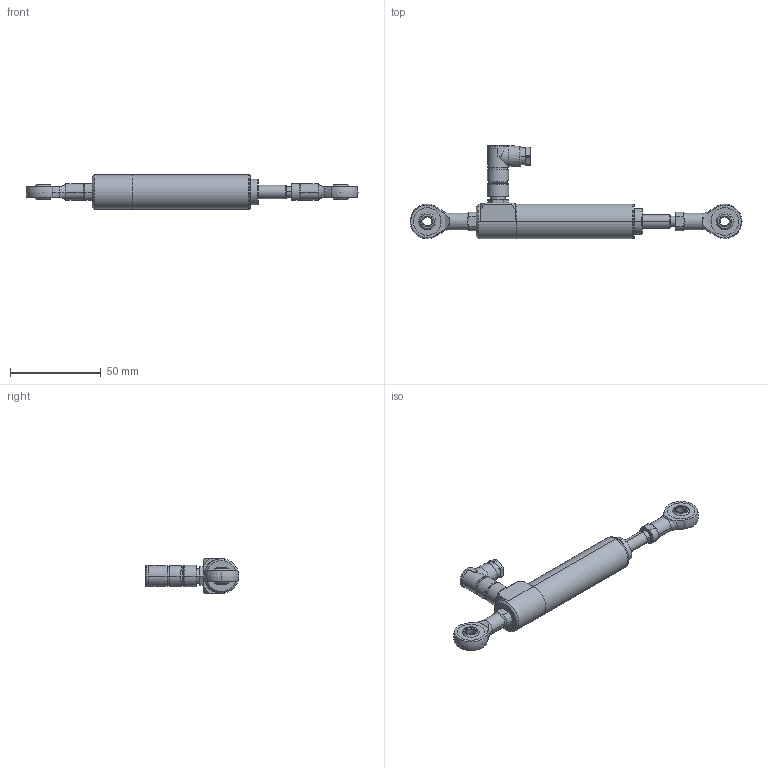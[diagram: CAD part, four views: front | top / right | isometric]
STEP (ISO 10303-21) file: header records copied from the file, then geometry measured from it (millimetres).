
FILE_DESCRIPTION (( 'STEP AP214' ), '1' );
FILE_NAME ('P118-5AKSU.STEP', '2025-04-10T10:32:08', ( '' ), ( '' ), 'SwSTEP 2.0', 'SolidWorks 2023', '' );
FILE_SCHEMA (( 'AUTOMOTIVE_DESIGN' ));
Length unit declared in the file: millimetre
Products named in the file (1): P118-5AKSU
Bounding box: 183 x 51.52 x 19.05 mm (x, y, z)
Surface area: 13891.8 mm2 (no closed solid volume)
Topology: 0 solids, 13 shells, 224 faces, 576 edges, 372 vertices
Faces by surface type: plane 81, cylinder 62, cone 45, torus 26, sphere 8, bspline 2
Entity records: 7131 total; most frequent: CARTESIAN_POINT 1705, DIRECTION 1196, ORIENTED_EDGE 1057, EDGE_CURVE 560, AXIS2_PLACEMENT_3D 497, VERTEX_POINT 366, CIRCLE 274, EDGE_LOOP 262
